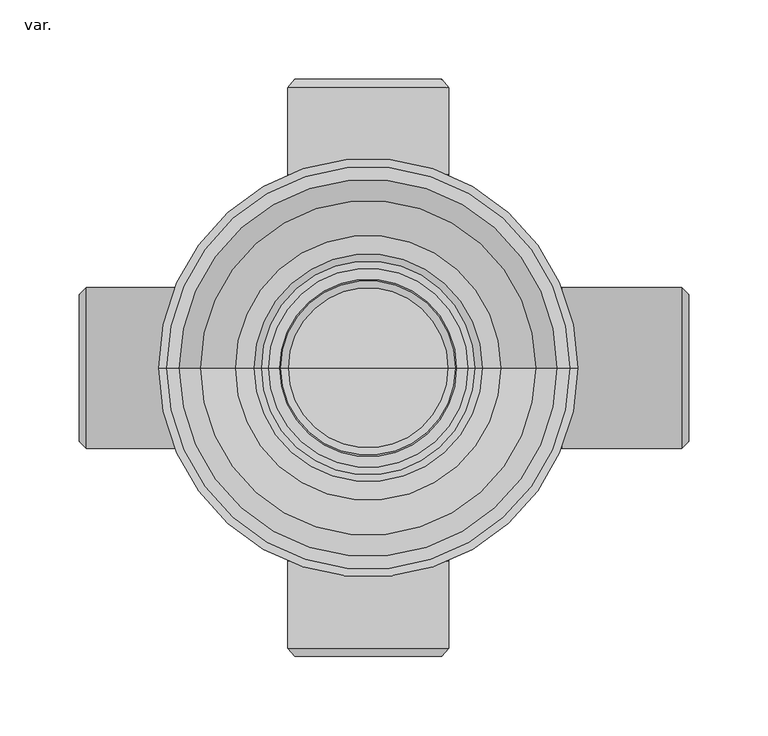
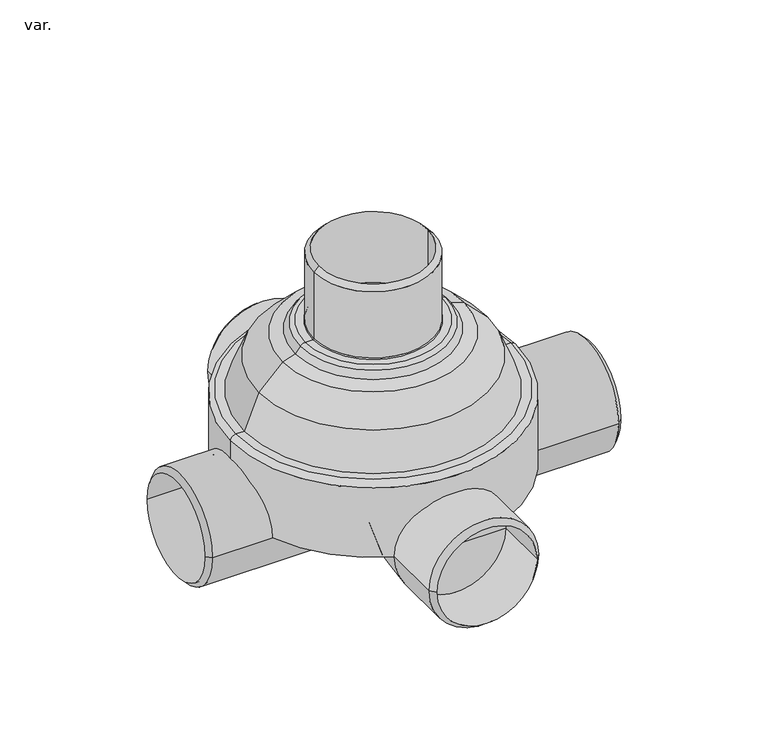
"""IFC4 building model written with IfcOpenShell, lengths in millimetres: pipe fitting geometry, AmancoWavin_ConexõesdeTubos_ColetoresTILcondominalDN100-3entradas : var.."""

from ifc_helpers import new_model, si_unit, point, frame, origin, place, context, project, spatial, polyline, circle_curve, ellipse_curve, trimmed, source, transform, mapped, element, save
from ifc_brep_helpers import plane_surface, cylinder_surface, revolved_surface, advanced_brep


def var_83fec077(model_context):
    return source(origin(), model_context, "Body", "AdvancedBrep", [
        advanced_brep(
        [(50.8, -176.6875, 0.0), (-50.8, -176.6875, 0.0), (-50.8, -121.9975, 0.0), (50.8, -121.9975, 0.0), (0.0, -131.9975, 0.0), (-46.3, -131.9975, 0.0), (46.3, -131.9975, 0.0), (-46.3, -181.9975, 0.0), (46.3, -181.9975, 0.0), (122.0, -50.7975, 0.0), (122.0, 50.8025, 0.0)],
        [
            (0, 1, circle_curve(frame((0.0, -176.6875, 0.0), z_axis=(0.0, 1.0, 0.0), x_axis=(-1.0, 0.0, 0.0)), 50.8)),
            (1, 2),
            (2, 3, circle_curve(frame((0.0, -121.9975, 0.0), z_axis=(0.0, -1.0, 0.0), x_axis=(-1.0, 0.0, 0.0)), 50.8)),
            (3, 0),
            (1, 0, circle_curve(frame((0.0, -176.6875, 0.0), z_axis=(0.0, 1.0, 0.0), x_axis=(-1.0, 0.0, 0.0)), 50.8)),
            (3, 2, circle_curve(frame((0.0, -121.9975, 0.0), z_axis=(0.0, -1.0, 0.0), x_axis=(-1.0, 0.0, 0.0)), 50.8)),
            (4, 5),
            (5, 6, circle_curve(frame((0.0, -131.9975, 0.0), z_axis=(0.0, -1.0, 0.0), x_axis=(-1.0, 0.0, 0.0)), 46.3)),
            (6, 4),
            (6, 5, circle_curve(frame((0.0, -131.9975, 0.0), z_axis=(0.0, -1.0, 0.0), x_axis=(-1.0, 0.0, 0.0)), 46.3)),
            (5, 7),
            (7, 8, circle_curve(frame((0.0, -181.9975, 0.0), z_axis=(0.0, -1.0, 0.0), x_axis=(-1.0, 0.0, 0.0)), 46.3)),
            (8, 6),
            (8, 7, circle_curve(frame((0.0, -181.9975, 0.0), z_axis=(0.0, -1.0, 0.0), x_axis=(-1.0, 0.0, 0.0)), 46.3)),
            (0, 8),
            (7, 1),
            (9, 10, circle_curve(frame((122.0, 0.0025, 0.0), z_axis=(1.0, 0.0, 0.0), x_axis=(0.0, 1.0, 0.0)), 50.8)),
            (10, 9, circle_curve(frame((122.0, 0.0025, 0.0), z_axis=(1.0, 0.0, 0.0), x_axis=(0.0, 1.0, 0.0)), 50.8)),
            (9, 3, circle_curve(frame((122.0, -121.9975, 0.0), z_axis=(0.0, 0.0, 1.0), x_axis=(-1.0, 0.0, 0.0)), 71.2)),
            (2, 10, circle_curve(frame((122.0, -121.9975, 0.0), z_axis=(0.0, 0.0, -1.0), x_axis=(-1.0, 0.0, 0.0)), 172.8)),
        ],
        [
            cylinder_surface(frame((0.0, -1949.1875, 0.0), z_axis=(0.0, -1.0, 0.0), x_axis=(-1.0, 0.0, 0.0)), 50.8),
            plane_surface(frame((0.0, -131.9975, 0.0), z_axis=(0.0, -1.0, 0.0), x_axis=(-1.0, 0.0, 0.0))),
            revolved_surface(polyline([(-46.3, -181.99749999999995, 0.0), (-46.3, -131.99749999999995, 0.0)]), (0.0, -1949.1875, 0.0), (0.0, -1.0, 0.0)),
            revolved_surface(polyline([(-50.8, -176.6875, 0.0), (-46.3, -181.9975, 0.0)]), (0.0, -1949.1875, 0.0), (0.0, -1.0, 0.0)),
            plane_surface(frame((122.0, 0.0025, 0.0), z_axis=(1.0, 0.0, 0.0), x_axis=(0.0, 0.0, 1.0))),
            revolved_surface(trimmed(ellipse_curve(frame((0.0, -121.9975, 0.0), z_axis=(0.0, -1.0, 0.0), x_axis=(-1.0, 0.0, 0.0)), 50.8, 50.8), [point((-50.8, -121.9975, 0.0))], [point((50.8, -121.9975, 0.0))], True, "CARTESIAN"), (122.0, -121.9975, 0.0), (0.0, 0.0, -1.0)),
            revolved_surface(trimmed(ellipse_curve(frame((0.0, -121.9975, 0.0), z_axis=(0.0, -1.0, 0.0), x_axis=(-1.0, 0.0, 0.0)), 50.8, 50.8), [point((50.8, -121.9975, 0.0))], [point((-50.8, -121.9975, 0.0))], True, "CARTESIAN"), (122.0, -121.9975, 0.0), (0.0, 0.0, -1.0)),
        ],
        [
            (0, [[1, 2, 3, 4]]),
            (0, [[-2, 5, -4, 6]]),
            (1, [[7, 8, 9]]),
            (1, [[-7, -9, 10]]),
            (2, [[-8, 11, 12, 13]]),
            (2, [[-10, -13, 14, -11]]),
            (3, [[-1, 15, -12, 16]]),
            (3, [[-5, -16, -14, -15]]),
            (4, [[17, 18]]),
            (5, [[-17, 19, -3, 20]]),
            (6, [[-18, -20, -6, -19]]),
        ],
    ),
        advanced_brep(
        [(122.0, -50.8025, 0.0), (122.0, 50.7975, 0.0), (50.8, 121.9975, 0.0), (-50.8, 121.9975, 0.0), (-50.8, 176.6875, 0.0), (50.8, 176.6875, 0.0), (46.3, 131.9975, 0.0), (-46.3, 131.9975, 0.0), (0.0, 131.9975, 0.0), (46.3, 181.9975, 0.0), (-46.3, 181.9975, 0.0)],
        [
            (0, 1, circle_curve(frame((122.0, -0.0025, 0.0), z_axis=(1.0, 0.0, 0.0), x_axis=(0.0, 1.0, 0.0)), 50.8)),
            (1, 0, circle_curve(frame((122.0, -0.0025, 0.0), z_axis=(1.0, 0.0, 0.0), x_axis=(0.0, 1.0, 0.0)), 50.8)),
            (1, 2, circle_curve(frame((122.0, 121.9975, 0.0), z_axis=(0.0, 0.0, -1.0), x_axis=(-1.0, 0.0, 0.0)), 71.2)),
            (2, 3, circle_curve(frame((0.0, 121.9975, 0.0), z_axis=(0.0, -1.0, 0.0), x_axis=(1.0, 0.0, 0.0)), 50.8)),
            (3, 0, circle_curve(frame((122.0, 121.9975, 0.0), z_axis=(0.0, 0.0, 1.0), x_axis=(-1.0, 0.0, 0.0)), 172.8)),
            (3, 2, circle_curve(frame((0.0, 121.9975, 0.0), z_axis=(0.0, -1.0, 0.0), x_axis=(1.0, 0.0, 0.0)), 50.8)),
            (3, 4),
            (4, 5, circle_curve(frame((0.0, 176.6875, 0.0), z_axis=(0.0, -1.0, 0.0), x_axis=(-1.0, 0.0, 0.0)), 50.8)),
            (5, 2),
            (5, 4, circle_curve(frame((0.0, 176.6875, 0.0), z_axis=(0.0, -1.0, 0.0), x_axis=(-1.0, 0.0, 0.0)), 50.8)),
            (6, 7, circle_curve(frame((0.0, 131.9975, 0.0), z_axis=(0.0, 1.0, 0.0), x_axis=(-1.0, 0.0, 0.0)), 46.3)),
            (7, 8),
            (8, 6),
            (7, 6, circle_curve(frame((0.0, 131.9975, 0.0), z_axis=(0.0, 1.0, 0.0), x_axis=(-1.0, 0.0, 0.0)), 46.3)),
            (6, 9),
            (9, 10, circle_curve(frame((0.0, 181.9975, 0.0), z_axis=(0.0, 1.0, 0.0), x_axis=(-1.0, 0.0, 0.0)), 46.3)),
            (10, 7),
            (10, 9, circle_curve(frame((0.0, 181.9975, 0.0), z_axis=(0.0, 1.0, 0.0), x_axis=(-1.0, 0.0, 0.0)), 46.3)),
            (4, 10),
            (9, 5),
        ],
        [
            plane_surface(frame((122.0, -0.0025, 0.0), z_axis=(1.0, 0.0, 0.0), x_axis=(0.0, 0.0, 1.0))),
            revolved_surface(trimmed(ellipse_curve(frame((0.0, 121.9975, 0.0), z_axis=(0.0, 1.0, 0.0), x_axis=(1.0, 0.0, 0.0)), 50.8, 50.8), [point((-50.8, 121.9975, 0.0))], [point((50.8, 121.9975, 0.0))], True, "CARTESIAN"), (122.0, 121.9975, 0.0), (0.0, 0.0, 1.0)),
            revolved_surface(trimmed(ellipse_curve(frame((0.0, 121.9975, 0.0), z_axis=(0.0, 1.0, 0.0), x_axis=(1.0, 0.0, 0.0)), 50.8, 50.8), [point((50.8, 121.9975, 0.0))], [point((-50.8, 121.9975, 0.0))], True, "CARTESIAN"), (122.0, 121.9975, 0.0), (0.0, 0.0, 1.0)),
            cylinder_surface(frame((0.0, 1949.1875, 0.0), z_axis=(0.0, -1.0, 0.0), x_axis=(-1.0, 0.0, 0.0)), 50.8),
            plane_surface(frame((0.0, 131.9975, 0.0), z_axis=(0.0, 1.0, 0.0), x_axis=(-1.0, 0.0, 0.0))),
            revolved_surface(polyline([(-46.3, 131.99749999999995, 0.0), (-46.3, 181.99749999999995, 0.0)]), (0.0, 1949.1875, 0.0), (0.0, -1.0, 0.0)),
            revolved_surface(polyline([(-46.3, 181.9975, 0.0), (-50.8, 176.6875, 0.0)]), (0.0, 1949.1875, 0.0), (0.0, -1.0, 0.0)),
        ],
        [
            (0, [[1, 2]]),
            (1, [[-2, 3, 4, 5]]),
            (2, [[-1, -5, 6, -3]]),
            (3, [[7, 8, 9, -6]]),
            (3, [[-7, -4, -9, 10]]),
            (4, [[11, 12, 13]]),
            (4, [[-12, 14, -13]]),
            (5, [[-11, 15, 16, 17]]),
            (5, [[-14, -17, 18, -15]]),
            (6, [[-8, 19, -16, 20]]),
            (6, [[-10, -20, -18, -19]]),
        ],
    ),
        advanced_brep(
        [(71.7800516, 0.0, 131.6591199), (-71.7800516, 0.0, 131.6591199), (-67.511975, 0.0, 137.5712275), (67.511975, 0.0, 137.5712275), (83.5416616, 0.0, 127.8144992), (-83.5416616, 0.0, 127.8144992), (105.5015375, 0.0, 105.8546233), (-105.5015375, 0.0, 105.8546233), (118.909099, 0.0, 72.6697439), (-118.909099, 0.0, 72.6697439), (131.9965377, 0.0, 0.0), (-131.9965377, 0.0, 0.0), (-131.9965377, 0.0, 67.6697439), (131.9965377, 0.0, 67.6697439), (0.0, 0.0, 0.0), (114.0556927, 0.0, 72.6697439), (-114.0556927, 0.0, 72.6697439), (0.0, 0.0, 72.6697439), (55.0, 0.0, 141.0036125), (-55.0, 0.0, 141.0036125), (-55.0, 0.0, 205.5036125), (55.0, 0.0, 205.5036125), (62.7559844, 0.0, 140.0036125), (-62.7559844, 0.0, 140.0036125), (-56.0, 0.0, 140.0036125), (56.0, 0.0, 140.0036125), (101.6721757, 0.0, 103.320024), (-101.6721757, 0.0, 103.320024), (81.1206276, 0.0, 123.8715721), (-81.1206276, 0.0, 123.8715721), (68.9891434, 0.0, 127.8370969), (-68.9891434, 0.0, 127.8370969), (63.4545222, 0.0, 135.5036125), (-63.4545222, 0.0, 135.5036125), (56.0, 0.0, 135.5036125), (-56.0, 0.0, 135.5036125), (50.5, 0.0, 210.0036125), (-50.5, 0.0, 210.0036125), (-50.5, 0.0, 141.0036125), (50.5, 0.0, 141.0036125), (126.9965377, 0.0, 72.6697439), (-126.9965377, 0.0, 72.6697439)],
        [
            (0, 1, circle_curve(frame((0.0, 0.0, 131.6591199), z_axis=(0.0, 0.0, 1.0), x_axis=(-1.0, 0.0, 0.0)), 71.7800516)),
            (1, 2),
            (2, 3, circle_curve(frame((0.0, 0.0, 137.5712275), z_axis=(0.0, 0.0, -1.0), x_axis=(-1.0, 0.0, 0.0)), 67.511975)),
            (3, 0),
            (1, 0, circle_curve(frame((0.0, 0.0, 131.6591199), z_axis=(0.0, 0.0, 1.0), x_axis=(-1.0, 0.0, 0.0)), 71.7800516)),
            (3, 2, circle_curve(frame((0.0, 0.0, 137.5712275), z_axis=(0.0, 0.0, -1.0), x_axis=(-1.0, 0.0, 0.0)), 67.511975)),
            (4, 5, circle_curve(frame((0.0, 0.0, 127.8144992), z_axis=(0.0, 0.0, 1.0), x_axis=(-1.0, 0.0, 0.0)), 83.5416616)),
            (5, 1),
            (0, 4),
            (5, 4, circle_curve(frame((0.0, 0.0, 127.8144992), z_axis=(0.0, 0.0, 1.0), x_axis=(-1.0, 0.0, 0.0)), 83.5416616)),
            (6, 7, circle_curve(frame((0.0, 0.0, 105.8546233), z_axis=(0.0, 0.0, 1.0), x_axis=(-1.0, 0.0, 0.0)), 105.5015375)),
            (7, 5),
            (4, 6),
            (7, 6, circle_curve(frame((0.0, 0.0, 105.8546233), z_axis=(0.0, 0.0, 1.0), x_axis=(-1.0, 0.0, 0.0)), 105.5015375)),
            (8, 9, circle_curve(frame((0.0, 0.0, 72.6697439), z_axis=(0.0, 0.0, 1.0), x_axis=(-1.0, 0.0, 0.0)), 118.909099)),
            (9, 7),
            (6, 8),
            (9, 8, circle_curve(frame((0.0, 0.0, 72.6697439), z_axis=(0.0, 0.0, 1.0), x_axis=(-1.0, 0.0, 0.0)), 118.909099)),
            (10, 11, circle_curve(frame((0.0, 0.0, 0.0), z_axis=(0.0, 0.0, 1.0), x_axis=(-1.0, 0.0, 0.0)), 131.9965377)),
            (11, 12),
            (12, 13, circle_curve(frame((0.0, 0.0, 67.6697439), z_axis=(0.0, 0.0, -1.0), x_axis=(-1.0, 0.0, 0.0)), 131.9965377)),
            (13, 10),
            (11, 10, circle_curve(frame((0.0, 0.0, 0.0), z_axis=(0.0, 0.0, 1.0), x_axis=(-1.0, 0.0, 0.0)), 131.9965377)),
            (13, 12, circle_curve(frame((0.0, 0.0, 67.6697439), z_axis=(0.0, 0.0, -1.0), x_axis=(-1.0, 0.0, 0.0)), 131.9965377)),
            (14, 11),
            (10, 14),
            (15, 16, circle_curve(frame((0.0, 0.0, 72.6697439), z_axis=(0.0, 0.0, 1.0), x_axis=(-1.0, 0.0, 0.0)), 114.0556927)),
            (16, 17),
            (17, 15),
            (16, 15, circle_curve(frame((0.0, 0.0, 72.6697439), z_axis=(0.0, 0.0, 1.0), x_axis=(-1.0, 0.0, 0.0)), 114.0556927)),
            (18, 19, circle_curve(frame((0.0, 0.0, 141.0036125), z_axis=(0.0, 0.0, 1.0), x_axis=(-1.0, 0.0, 0.0)), 55.0)),
            (19, 20),
            (20, 21, circle_curve(frame((0.0, 0.0, 205.5036125), z_axis=(0.0, 0.0, -1.0), x_axis=(-1.0, 0.0, 0.0)), 55.0)),
            (21, 18),
            (19, 18, circle_curve(frame((0.0, 0.0, 141.0036125), z_axis=(0.0, 0.0, 1.0), x_axis=(-1.0, 0.0, 0.0)), 55.0)),
            (21, 20, circle_curve(frame((0.0, 0.0, 205.5036125), z_axis=(0.0, 0.0, -1.0), x_axis=(-1.0, 0.0, 0.0)), 55.0)),
            (22, 23, circle_curve(frame((0.0, 0.0, 140.0036125), z_axis=(0.0, 0.0, 1.0), x_axis=(-1.0, 0.0, 0.0)), 62.7559844)),
            (23, 24),
            (24, 25, circle_curve(frame((0.0, 0.0, 140.0036125), z_axis=(0.0, 0.0, -1.0), x_axis=(-1.0, 0.0, 0.0)), 56.0)),
            (25, 22),
            (23, 22, circle_curve(frame((0.0, 0.0, 140.0036125), z_axis=(0.0, 0.0, 1.0), x_axis=(-1.0, 0.0, 0.0)), 62.7559844)),
            (25, 24, circle_curve(frame((0.0, 0.0, 140.0036125), z_axis=(0.0, 0.0, -1.0), x_axis=(-1.0, 0.0, 0.0)), 56.0)),
            (26, 27, circle_curve(frame((0.0, 0.0, 103.320024), z_axis=(0.0, 0.0, 1.0), x_axis=(-1.0, 0.0, 0.0)), 101.6721757)),
            (27, 16),
            (15, 26),
            (27, 26, circle_curve(frame((0.0, 0.0, 103.320024), z_axis=(0.0, 0.0, 1.0), x_axis=(-1.0, 0.0, 0.0)), 101.6721757)),
            (28, 29, circle_curve(frame((0.0, 0.0, 123.8715721), z_axis=(0.0, 0.0, 1.0), x_axis=(-1.0, 0.0, 0.0)), 81.1206276)),
            (29, 27),
            (26, 28),
            (29, 28, circle_curve(frame((0.0, 0.0, 123.8715721), z_axis=(0.0, 0.0, 1.0), x_axis=(-1.0, 0.0, 0.0)), 81.1206276)),
            (30, 31, circle_curve(frame((0.0, 0.0, 127.8370969), z_axis=(0.0, 0.0, 1.0), x_axis=(-1.0, 0.0, 0.0)), 68.9891434)),
            (31, 29),
            (28, 30),
            (31, 30, circle_curve(frame((0.0, 0.0, 127.8370969), z_axis=(0.0, 0.0, 1.0), x_axis=(-1.0, 0.0, 0.0)), 68.9891434)),
            (32, 33, circle_curve(frame((0.0, 0.0, 135.5036125), z_axis=(0.0, 0.0, 1.0), x_axis=(-1.0, 0.0, 0.0)), 63.4545222)),
            (33, 31),
            (30, 32),
            (33, 32, circle_curve(frame((0.0, 0.0, 135.5036125), z_axis=(0.0, 0.0, 1.0), x_axis=(-1.0, 0.0, 0.0)), 63.4545222)),
            (34, 35, circle_curve(frame((0.0, 0.0, 135.5036125), z_axis=(0.0, 0.0, 1.0), x_axis=(-1.0, 0.0, 0.0)), 56.0)),
            (35, 33),
            (32, 34),
            (35, 34, circle_curve(frame((0.0, 0.0, 135.5036125), z_axis=(0.0, 0.0, 1.0), x_axis=(-1.0, 0.0, 0.0)), 56.0)),
            (36, 37, circle_curve(frame((0.0, 0.0, 210.0036125), z_axis=(0.0, 0.0, 1.0), x_axis=(-1.0, 0.0, 0.0)), 50.5)),
            (37, 38),
            (38, 39, circle_curve(frame((0.0, 0.0, 141.0036125), z_axis=(0.0, 0.0, -1.0), x_axis=(-1.0, 0.0, 0.0)), 50.5)),
            (39, 36),
            (37, 36, circle_curve(frame((0.0, 0.0, 210.0036125), z_axis=(0.0, 0.0, 1.0), x_axis=(-1.0, 0.0, 0.0)), 50.5)),
            (39, 38, circle_curve(frame((0.0, 0.0, 141.0036125), z_axis=(0.0, 0.0, -1.0), x_axis=(-1.0, 0.0, 0.0)), 50.5)),
            (40, 41, circle_curve(frame((0.0, 0.0, 72.6697439), z_axis=(0.0, 0.0, 1.0), x_axis=(-1.0, 0.0, 0.0)), 126.9965377)),
            (41, 9),
            (8, 40),
            (41, 40, circle_curve(frame((0.0, 0.0, 72.6697439), z_axis=(0.0, 0.0, 1.0), x_axis=(-1.0, 0.0, 0.0)), 126.9965377)),
            (12, 41, circle_curve(frame((-126.9965377, 0.0, 67.6697439), z_axis=(0.0, 1.0, 0.0), x_axis=(1.0, 0.0, 0.0)), 5.0)),
            (40, 13, circle_curve(frame((126.9965377, 0.0, 67.6697439), z_axis=(0.0, 1.0, 0.0), x_axis=(-1.0, 0.0, 0.0)), 5.0)),
            (2, 23, circle_curve(frame((-62.7559844, 0.0, 134.1377764), z_axis=(0.0, 1.0, 0.0), x_axis=(1.0, 0.0, 0.0)), 5.8658361)),
            (22, 3, circle_curve(frame((62.7559844, 0.0, 134.1377764), z_axis=(0.0, 1.0, 0.0), x_axis=(-1.0, 0.0, 0.0)), 5.8658361)),
            (38, 35, circle_curve(frame((-56.0, 0.0, 141.0036125), z_axis=(0.0, 1.0, 0.0), x_axis=(1.0, 0.0, 0.0)), 5.5)),
            (34, 39, circle_curve(frame((56.0, 0.0, 141.0036125), z_axis=(0.0, 1.0, 0.0), x_axis=(-1.0, 0.0, 0.0)), 5.5)),
            (24, 19, circle_curve(frame((-56.0, 0.0, 141.0036125), z_axis=(0.0, -1.0, 0.0), x_axis=(1.0, 0.0, 0.0)), 1.0)),
            (18, 25, circle_curve(frame((56.0, 0.0, 141.0036125), z_axis=(0.0, -1.0, 0.0), x_axis=(-1.0, 0.0, 0.0)), 1.0)),
            (20, 37),
            (36, 21),
        ],
        [
            revolved_surface(polyline([(-67.511975, 0.0, 137.5712275), (-71.7800516, 0.0, 131.6591199)]), (0.0, 0.0, 1538.5369823), (0.0, 0.0, -1.0)),
            revolved_surface(polyline([(-71.7800516, 0.0, 131.6591199), (-83.5416616, 0.0, 127.8144992)]), (0.0, 0.0, 1538.5369823), (0.0, 0.0, -1.0)),
            revolved_surface(polyline([(-83.5416616, 0.0, 127.8144992), (-105.5015375, 0.0, 105.8546233)]), (0.0, 0.0, 1538.5369823), (0.0, 0.0, -1.0)),
            revolved_surface(polyline([(-105.5015375, 0.0, 105.8546233), (-118.909099, 0.0, 72.6697439)]), (0.0, 0.0, 1538.5369823), (0.0, 0.0, -1.0)),
            cylinder_surface(frame((0.0, 0.0, 1538.5369823), z_axis=(0.0, 0.0, -1.0), x_axis=(-1.0, 0.0, 0.0)), 131.9965377),
            plane_surface(frame((0.0, 0.0, 0.0), z_axis=(0.0, 0.0, -1.0), x_axis=(-1.0, 0.0, 0.0))),
            plane_surface(frame((0.0, 0.0, 72.6697439), z_axis=(0.0, 0.0, 1.0), x_axis=(-1.0, 0.0, 0.0))),
            cylinder_surface(frame((0.0, 0.0, 1538.5369823), z_axis=(0.0, 0.0, -1.0), x_axis=(-1.0, 0.0, 0.0)), 55.0),
            plane_surface(frame((0.0, 0.0, 140.0036125), z_axis=(0.0, 0.0, 1.0), x_axis=(-1.0, 0.0, 0.0))),
            revolved_surface(polyline([(-114.0556927, 0.0, 72.6697439), (-101.6721757, 0.0, 103.320024)]), (0.0, 0.0, 1538.5369823), (0.0, 0.0, -1.0)),
            revolved_surface(polyline([(-101.6721757, 0.0, 103.320024), (-81.1206276, 0.0, 123.8715721)]), (0.0, 0.0, 1538.5369823), (0.0, 0.0, -1.0)),
            revolved_surface(polyline([(-81.1206276, 0.0, 123.8715721), (-68.9891434, 0.0, 127.8370969)]), (0.0, 0.0, 1538.5369823), (0.0, 0.0, -1.0)),
            revolved_surface(polyline([(-68.9891434, 0.0, 127.8370969), (-63.4545222, 0.0, 135.5036125)]), (0.0, 0.0, 1538.5369823), (0.0, 0.0, -1.0)),
            plane_surface(frame((0.0, 0.0, 135.5036125), z_axis=(0.0, 0.0, -1.0), x_axis=(-1.0, 0.0, 0.0))),
            revolved_surface(polyline([(-50.5, 0.0, 141.00361249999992), (-50.5, 0.0, 210.00361249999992)]), (0.0, 0.0, 1538.5369823), (0.0, 0.0, -1.0)),
            revolved_surface(trimmed(ellipse_curve(frame((-126.9965377, 0.0, 67.6697439), z_axis=(0.0, -1.0, 0.0), x_axis=(1.0, 0.0, 0.0)), 5.0, 5.0), [point((-126.9965377, 0.0, 72.6697439))], [point((-131.9965377, 0.0, 67.6697439))], True, "CARTESIAN"), (0.0, 0.0, 1538.5369823), (0.0, 0.0, -1.0)),
            revolved_surface(trimmed(ellipse_curve(frame((-62.7559844, 0.0, 134.1377764), z_axis=(0.0, -1.0, 0.0), x_axis=(1.0, 0.0, 0.0)), 5.8658361, 5.8658361), [point((-62.7559844, 0.0, 140.0036125))], [point((-67.511975, 0.0, 137.5712275))], True, "CARTESIAN"), (0.0, 0.0, 1538.5369823), (0.0, 0.0, -1.0)),
            revolved_surface(trimmed(ellipse_curve(frame((-56.0, 0.0, 141.0036125), z_axis=(0.0, -1.0, 0.0), x_axis=(1.0, 0.0, 0.0)), 5.5, 5.5), [point((-56.0, 0.0, 135.5036125))], [point((-50.5, 0.0, 141.0036125))], True, "CARTESIAN"), (0.0, 0.0, 1538.5369823), (0.0, 0.0, -1.0)),
            revolved_surface(trimmed(ellipse_curve(frame((-56.0, 0.0, 141.0036125), z_axis=(0.0, 1.0, 0.0), x_axis=(1.0, 0.0, 0.0)), 1.0, 1.0), [point((-55.0, 0.0, 141.0036125))], [point((-56.0, 0.0, 140.0036125))], True, "CARTESIAN"), (0.0, 0.0, 1538.5369823), (0.0, 0.0, -1.0)),
            revolved_surface(polyline([(-50.5, 0.0, 210.0036125), (-55.0, 0.0, 205.5036125)]), (0.0, 0.0, 1538.5369823), (0.0, 0.0, -1.0)),
        ],
        [
            (0, [[1, 2, 3, 4]]),
            (0, [[5, -4, 6, -2]]),
            (1, [[7, 8, -1, 9]]),
            (1, [[10, -9, -5, -8]]),
            (2, [[11, 12, -7, 13]]),
            (2, [[14, -13, -10, -12]]),
            (3, [[15, 16, -11, 17]]),
            (3, [[18, -17, -14, -16]]),
            (4, [[19, 20, 21, 22]]),
            (4, [[23, -22, 24, -20]]),
            (5, [[25, -19, 26]]),
            (5, [[-26, -23, -25]]),
            (6, [[27, 28, 29]]),
            (6, [[30, -29, -28]]),
            (7, [[31, 32, 33, 34]]),
            (7, [[35, -34, 36, -32]]),
            (8, [[37, 38, 39, 40]]),
            (8, [[41, -40, 42, -38]]),
            (9, [[43, 44, -27, 45]]),
            (9, [[46, -45, -30, -44]]),
            (10, [[47, 48, -43, 49]]),
            (10, [[50, -49, -46, -48]]),
            (11, [[51, 52, -47, 53]]),
            (11, [[54, -53, -50, -52]]),
            (12, [[55, 56, -51, 57]]),
            (12, [[58, -57, -54, -56]]),
            (13, [[59, 60, -55, 61]]),
            (13, [[62, -61, -58, -60]]),
            (14, [[63, 64, 65, 66]]),
            (14, [[67, -66, 68, -64]]),
            (6, [[69, 70, -15, 71]]),
            (6, [[72, -71, -18, -70]]),
            (15, [[-21, 73, -69, 74]]),
            (15, [[-24, -74, -72, -73]]),
            (16, [[-3, 75, -37, 76]]),
            (16, [[-6, -76, -41, -75]]),
            (17, [[-65, 77, -59, 78]]),
            (17, [[-68, -78, -62, -77]]),
            (18, [[-39, 79, -31, 80]]),
            (18, [[-42, -80, -35, -79]]),
            (19, [[-33, 81, -63, 82]]),
            (19, [[-36, -82, -67, -81]]),
        ],
    ),
        advanced_brep(
        [(-177.5, -50.8, 0.0), (-177.5, 50.8, 0.0), (197.5, 50.8, 0.0), (197.5, -50.8, 0.0), (-132.0, -46.3, 0.0), (-132.0, 46.3, 0.0), (-182.0, 46.3, 0.0), (-182.0, -46.3, 0.0), (-132.0, 0.0, 0.0), (132.0, -46.3, 0.0), (132.0, 46.3, 0.0), (132.0, 0.0, 0.0), (202.0, -46.3, 0.0), (202.0, 46.3, 0.0)],
        [
            (0, 1, circle_curve(frame((-177.5, 0.0, 0.0), z_axis=(1.0, 0.0, 0.0), x_axis=(0.0, 1.0, 0.0)), 50.8)),
            (1, 2),
            (2, 3, circle_curve(frame((197.5, 0.0, 0.0), z_axis=(-1.0, 0.0, 0.0), x_axis=(0.0, 1.0, 0.0)), 50.8)),
            (3, 0),
            (1, 0, circle_curve(frame((-177.5, 0.0, 0.0), z_axis=(1.0, 0.0, 0.0), x_axis=(0.0, 1.0, 0.0)), 50.8)),
            (3, 2, circle_curve(frame((197.5, 0.0, 0.0), z_axis=(-1.0, 0.0, 0.0), x_axis=(0.0, 1.0, 0.0)), 50.8)),
            (4, 5, circle_curve(frame((-132.0, 0.0, 0.0), z_axis=(1.0, 0.0, 0.0), x_axis=(0.0, 1.0, 0.0)), 46.3)),
            (5, 6),
            (6, 7, circle_curve(frame((-182.0, 0.0, 0.0), z_axis=(-1.0, 0.0, 0.0), x_axis=(0.0, 1.0, 0.0)), 46.3)),
            (7, 4),
            (5, 4, circle_curve(frame((-132.0, 0.0, 0.0), z_axis=(1.0, 0.0, 0.0), x_axis=(0.0, 1.0, 0.0)), 46.3)),
            (7, 6, circle_curve(frame((-182.0, 0.0, 0.0), z_axis=(-1.0, 0.0, 0.0), x_axis=(0.0, 1.0, 0.0)), 46.3)),
            (8, 5),
            (4, 8),
            (6, 1),
            (0, 7),
            (9, 10, circle_curve(frame((132.0, 0.0, 0.0), z_axis=(1.0, 0.0, 0.0), x_axis=(0.0, 1.0, 0.0)), 46.3)),
            (10, 11),
            (11, 9),
            (10, 9, circle_curve(frame((132.0, 0.0, 0.0), z_axis=(1.0, 0.0, 0.0), x_axis=(0.0, 1.0, 0.0)), 46.3)),
            (12, 13, circle_curve(frame((202.0, 0.0, 0.0), z_axis=(1.0, 0.0, 0.0), x_axis=(0.0, 1.0, 0.0)), 46.3)),
            (13, 10),
            (9, 12),
            (13, 12, circle_curve(frame((202.0, 0.0, 0.0), z_axis=(1.0, 0.0, 0.0), x_axis=(0.0, 1.0, 0.0)), 46.3)),
            (2, 13),
            (12, 3),
        ],
        [
            cylinder_surface(frame((1950.0, 0.0, 0.0), z_axis=(-1.0, 0.0, 0.0), x_axis=(0.0, 1.0, 0.0)), 50.8),
            revolved_surface(polyline([(-182.0, 46.3, 0.0), (-132.0, 46.3, 0.0)]), (1950.0, 0.0, 0.0), (-1.0, 0.0, 0.0)),
            plane_surface(frame((-132.0, 0.0, 0.0), z_axis=(-1.0, 0.0, 0.0), x_axis=(0.0, 1.0, 0.0))),
            revolved_surface(polyline([(-177.5, 50.8, 0.0), (-182.0, 46.3, 0.0)]), (1950.0, 0.0, 0.0), (-1.0, 0.0, 0.0)),
            plane_surface(frame((132.0, 0.0, 0.0), z_axis=(1.0, 0.0, 0.0), x_axis=(0.0, 1.0, 0.0))),
            revolved_surface(polyline([(132.0, 46.3, 0.0), (202.0, 46.3, 0.0)]), (1950.0, 0.0, 0.0), (-1.0, 0.0, 0.0)),
            revolved_surface(polyline([(202.0, 46.3, 0.0), (197.5, 50.8, 0.0)]), (1950.0, 0.0, 0.0), (-1.0, 0.0, 0.0)),
        ],
        [
            (0, [[1, 2, 3, 4]]),
            (0, [[5, -4, 6, -2]]),
            (1, [[7, 8, 9, 10]]),
            (1, [[11, -10, 12, -8]]),
            (2, [[13, -7, 14]]),
            (2, [[-14, -11, -13]]),
            (3, [[-9, 15, -1, 16]]),
            (3, [[-12, -16, -5, -15]]),
            (4, [[17, 18, 19]]),
            (4, [[20, -19, -18]]),
            (5, [[21, 22, -17, 23]]),
            (5, [[24, -23, -20, -22]]),
            (6, [[-3, 25, -21, 26]]),
            (6, [[-6, -26, -24, -25]]),
        ],
    ),
    ])


if __name__ == "__main__":
    model = new_model("IFC4")
    model_context = context("Model", 3, world=origin())
    ifc_project = project(units=[si_unit("LENGTHUNIT", "METRE", prefix="MILLI")], contexts=[model_context])
    site = spatial("IfcSite", under=ifc_project)
    building = spatial("IfcBuilding", under=site)
    placement = place(None, origin())
    var_shape = var_83fec077(model_context)
    element("IfcPipeFitting", 1, ObjectType="AmancoWavin_ConexõesdeTubos_ColetoresTILcondominalDN100-3entradas : var.", at=placement, inside=building, context=model_context, shape_type="MappedRepresentation", body=[
        mapped(var_shape, transform((0.0, 0.0, 0.0), x_axis=(1.0, 0.0, 0.0), y_axis=(0.0, 1.0, 0.0), z_axis=(0.0, 0.0, 1.0))),
    ])
    save(model, "model.ifc")
